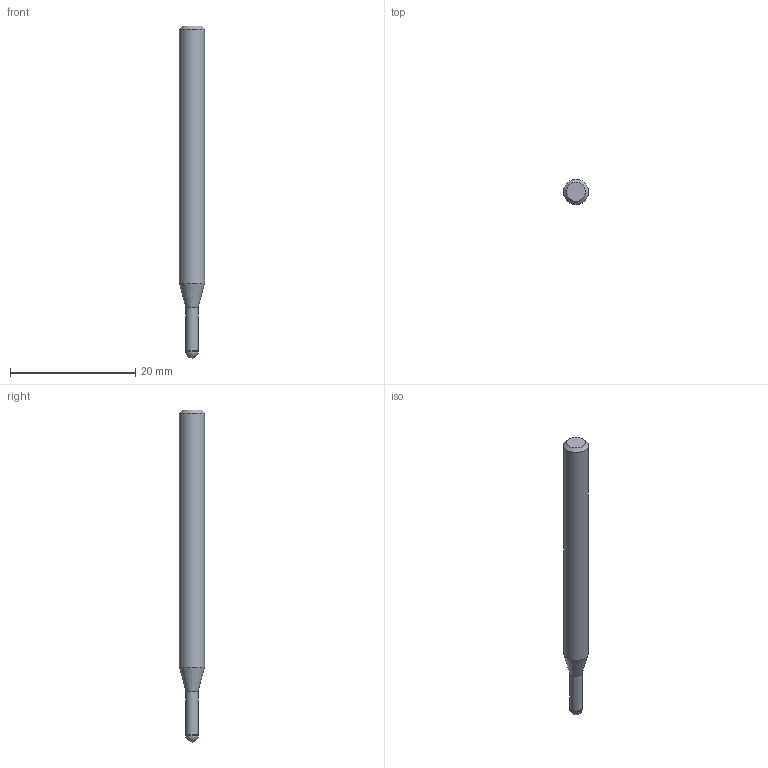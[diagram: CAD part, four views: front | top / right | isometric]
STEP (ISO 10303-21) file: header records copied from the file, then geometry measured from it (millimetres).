
FILE_DESCRIPTION((''),'2;1');
FILE_NAME('C:\Users\nsx150\AppData\Local\Temp\Mastercam 2021\LJSIDMOTM8\TEMP.step','2021-08-03T14:24:16',(''),(''),'STEP Write','Mastercam 2021 ... CNC Software, Inc.','');
FILE_SCHEMA(('AUTOMOTIVE_DESIGN'));
Length unit declared in the file: millimetre
Products named in the file (1): None
Bounding box: 4 x 4 x 53 mm (x, y, z)
Volume: 566.3 mm3; surface area: 618 mm2
Topology: 2 solids, 2 shells, 9 faces, 14 edges, 8 vertices
Faces by surface type: plane 3, cylinder 3, cone 2, sphere 1
Full cylindrical faces by diameter (mm): 1.94 x1, 2 x1, 4 x1
Entity records: 211 total; most frequent: DIRECTION 36, CARTESIAN_POINT 25, AXIS2_PLACEMENT_3D 18, ORIENTED_EDGE 14, EDGE_LOOP 14, STYLED_ITEM 12, ADVANCED_FACE 9, FACE_BOUND 8
